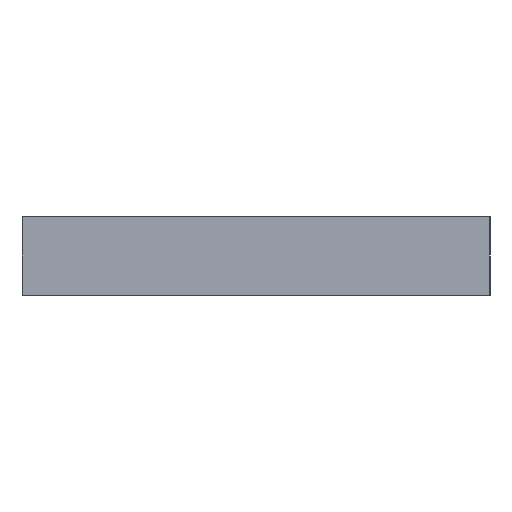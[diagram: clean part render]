
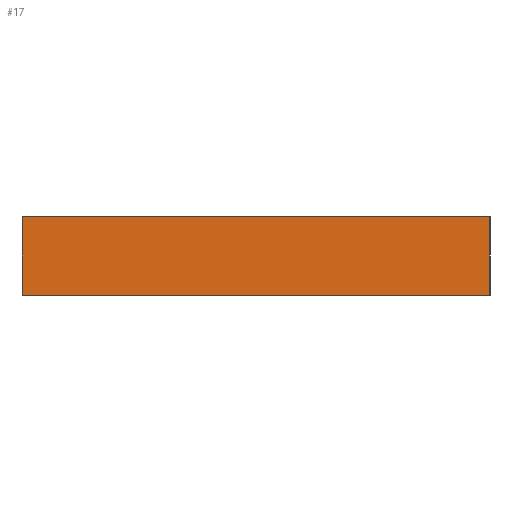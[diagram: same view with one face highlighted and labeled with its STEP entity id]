
A CAD part, left-side view. The second image highlights one B-rep face of the part: STEP entity #17.
In plain terms, the highlighted planar face has unit normal (-1, 0, 0).
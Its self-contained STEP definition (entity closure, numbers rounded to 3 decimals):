
#17 = ADVANCED_FACE('',(#18),#32,.F.);
#18 = FACE_BOUND('',#19,.F.);
#19 = EDGE_LOOP('',(#20,#55,#83,#111));
#20 = ORIENTED_EDGE('',*,*,#21,.F.);
#21 = EDGE_CURVE('',#22,#24,#26,.T.);
#22 = VERTEX_POINT('',#23);
#23 = CARTESIAN_POINT('',(-189.,-125.,-21.));
#24 = VERTEX_POINT('',#25);
#25 = CARTESIAN_POINT('',(-189.,-125.,21.));
#26 = SURFACE_CURVE('',#27,(#31,#43),.PCURVE_S1.);
#27 = LINE('',#28,#29);
#28 = CARTESIAN_POINT('',(-189.,-125.,-21.));
#29 = VECTOR('',#30,1.);
#30 = DIRECTION('',(0.,0.,1.));
#31 = PCURVE('',#32,#37);
#32 = PLANE('',#33);
#33 = AXIS2_PLACEMENT_3D('',#34,#35,#36);
#34 = CARTESIAN_POINT('',(-189.,-125.,-21.));
#35 = DIRECTION('',(1.,0.,0.));
#36 = DIRECTION('',(0.,0.,1.));
#37 = DEFINITIONAL_REPRESENTATION('',(#38),#42);
#38 = LINE('',#39,#40);
#39 = CARTESIAN_POINT('',(0.,0.));
#40 = VECTOR('',#41,1.);
#41 = DIRECTION('',(1.,0.));
#42 = ( GEOMETRIC_REPRESENTATION_CONTEXT(2) 
PARAMETRIC_REPRESENTATION_CONTEXT() REPRESENTATION_CONTEXT('2D SPACE',''
  ) );
#43 = PCURVE('',#44,#49);
#44 = PLANE('',#45);
#45 = AXIS2_PLACEMENT_3D('',#46,#47,#48);
#46 = CARTESIAN_POINT('',(-189.,-125.,-21.));
#47 = DIRECTION('',(0.,1.,0.));
#48 = DIRECTION('',(0.,0.,1.));
#49 = DEFINITIONAL_REPRESENTATION('',(#50),#54);
#50 = LINE('',#51,#52);
#51 = CARTESIAN_POINT('',(0.,0.));
#52 = VECTOR('',#53,1.);
#53 = DIRECTION('',(1.,0.));
#54 = ( GEOMETRIC_REPRESENTATION_CONTEXT(2) 
PARAMETRIC_REPRESENTATION_CONTEXT() REPRESENTATION_CONTEXT('2D SPACE',''
  ) );
#55 = ORIENTED_EDGE('',*,*,#56,.T.);
#56 = EDGE_CURVE('',#22,#57,#59,.T.);
#57 = VERTEX_POINT('',#58);
#58 = CARTESIAN_POINT('',(-189.,125.,-21.));
#59 = SURFACE_CURVE('',#60,(#64,#71),.PCURVE_S1.);
#60 = LINE('',#61,#62);
#61 = CARTESIAN_POINT('',(-189.,-125.,-21.));
#62 = VECTOR('',#63,1.);
#63 = DIRECTION('',(0.,1.,0.));
#64 = PCURVE('',#32,#65);
#65 = DEFINITIONAL_REPRESENTATION('',(#66),#70);
#66 = LINE('',#67,#68);
#67 = CARTESIAN_POINT('',(0.,0.));
#68 = VECTOR('',#69,1.);
#69 = DIRECTION('',(0.,-1.));
#70 = ( GEOMETRIC_REPRESENTATION_CONTEXT(2) 
PARAMETRIC_REPRESENTATION_CONTEXT() REPRESENTATION_CONTEXT('2D SPACE',''
  ) );
#71 = PCURVE('',#72,#77);
#72 = PLANE('',#73);
#73 = AXIS2_PLACEMENT_3D('',#74,#75,#76);
#74 = CARTESIAN_POINT('',(-189.,-125.,-21.));
#75 = DIRECTION('',(0.,0.,1.));
#76 = DIRECTION('',(1.,0.,0.));
#77 = DEFINITIONAL_REPRESENTATION('',(#78),#82);
#78 = LINE('',#79,#80);
#79 = CARTESIAN_POINT('',(0.,0.));
#80 = VECTOR('',#81,1.);
#81 = DIRECTION('',(0.,1.));
#82 = ( GEOMETRIC_REPRESENTATION_CONTEXT(2) 
PARAMETRIC_REPRESENTATION_CONTEXT() REPRESENTATION_CONTEXT('2D SPACE',''
  ) );
#83 = ORIENTED_EDGE('',*,*,#84,.T.);
#84 = EDGE_CURVE('',#57,#85,#87,.T.);
#85 = VERTEX_POINT('',#86);
#86 = CARTESIAN_POINT('',(-189.,125.,21.));
#87 = SURFACE_CURVE('',#88,(#92,#99),.PCURVE_S1.);
#88 = LINE('',#89,#90);
#89 = CARTESIAN_POINT('',(-189.,125.,-21.));
#90 = VECTOR('',#91,1.);
#91 = DIRECTION('',(0.,0.,1.));
#92 = PCURVE('',#32,#93);
#93 = DEFINITIONAL_REPRESENTATION('',(#94),#98);
#94 = LINE('',#95,#96);
#95 = CARTESIAN_POINT('',(0.,-250.));
#96 = VECTOR('',#97,1.);
#97 = DIRECTION('',(1.,0.));
#98 = ( GEOMETRIC_REPRESENTATION_CONTEXT(2) 
PARAMETRIC_REPRESENTATION_CONTEXT() REPRESENTATION_CONTEXT('2D SPACE',''
  ) );
#99 = PCURVE('',#100,#105);
#100 = PLANE('',#101);
#101 = AXIS2_PLACEMENT_3D('',#102,#103,#104);
#102 = CARTESIAN_POINT('',(-189.,125.,-21.));
#103 = DIRECTION('',(0.,1.,0.));
#104 = DIRECTION('',(0.,0.,1.));
#105 = DEFINITIONAL_REPRESENTATION('',(#106),#110);
#106 = LINE('',#107,#108);
#107 = CARTESIAN_POINT('',(0.,0.));
#108 = VECTOR('',#109,1.);
#109 = DIRECTION('',(1.,0.));
#110 = ( GEOMETRIC_REPRESENTATION_CONTEXT(2) 
PARAMETRIC_REPRESENTATION_CONTEXT() REPRESENTATION_CONTEXT('2D SPACE',''
  ) );
#111 = ORIENTED_EDGE('',*,*,#112,.F.);
#112 = EDGE_CURVE('',#24,#85,#113,.T.);
#113 = SURFACE_CURVE('',#114,(#118,#125),.PCURVE_S1.);
#114 = LINE('',#115,#116);
#115 = CARTESIAN_POINT('',(-189.,-125.,21.));
#116 = VECTOR('',#117,1.);
#117 = DIRECTION('',(0.,1.,0.));
#118 = PCURVE('',#32,#119);
#119 = DEFINITIONAL_REPRESENTATION('',(#120),#124);
#120 = LINE('',#121,#122);
#121 = CARTESIAN_POINT('',(42.,0.));
#122 = VECTOR('',#123,1.);
#123 = DIRECTION('',(0.,-1.));
#124 = ( GEOMETRIC_REPRESENTATION_CONTEXT(2) 
PARAMETRIC_REPRESENTATION_CONTEXT() REPRESENTATION_CONTEXT('2D SPACE',''
  ) );
#125 = PCURVE('',#126,#131);
#126 = PLANE('',#127);
#127 = AXIS2_PLACEMENT_3D('',#128,#129,#130);
#128 = CARTESIAN_POINT('',(-189.,-125.,21.));
#129 = DIRECTION('',(0.,0.,1.));
#130 = DIRECTION('',(1.,0.,0.));
#131 = DEFINITIONAL_REPRESENTATION('',(#132),#136);
#132 = LINE('',#133,#134);
#133 = CARTESIAN_POINT('',(0.,0.));
#134 = VECTOR('',#135,1.);
#135 = DIRECTION('',(0.,1.));
#136 = ( GEOMETRIC_REPRESENTATION_CONTEXT(2) 
PARAMETRIC_REPRESENTATION_CONTEXT() REPRESENTATION_CONTEXT('2D SPACE',''
  ) );
